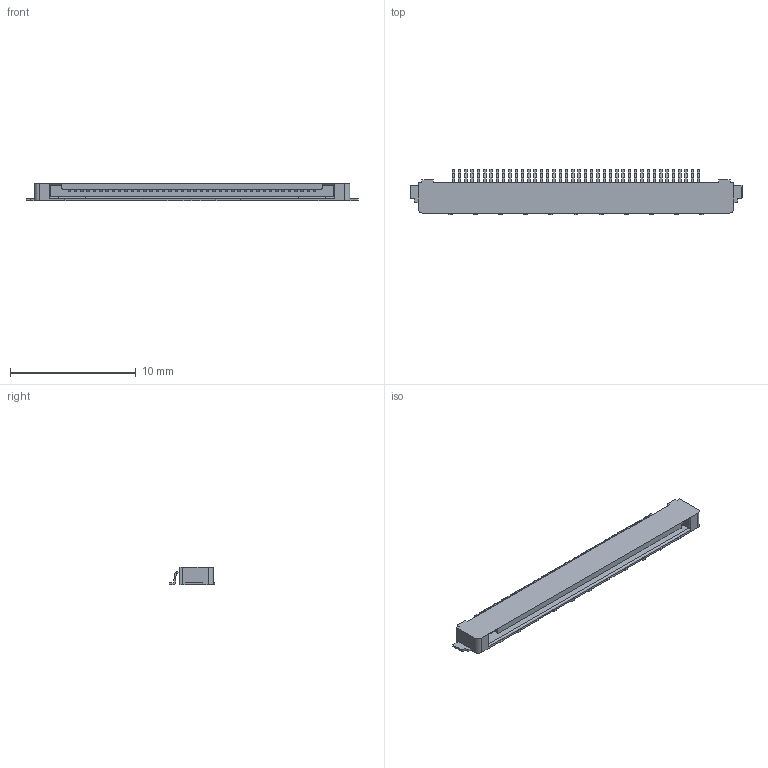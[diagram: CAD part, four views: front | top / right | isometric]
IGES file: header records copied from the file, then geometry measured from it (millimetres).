
Start section: Elysium IGES Interface
Global section: file name: C:\Users\1088\Desktop\SSLxx-xxL3\SSL00-40L3_IG.igs; native system: Creo Elements/Direct Modeling 19.0F  14-Feb-2017; preprocessor: Creo Element/Direct IGES_3D V2.2; author: Unknown; organization: Unknown; date: 20170804.141535; units: millimetre
Bounding box: 26.4 x 3.58 x 1.4 mm (x, y, z)
Volume: 66 mm3; surface area: 348.4 mm2
Topology: 1 solids, 1 shells, 957 faces, 2860 edges, 1906 vertices
Faces by surface type: bspline 957
